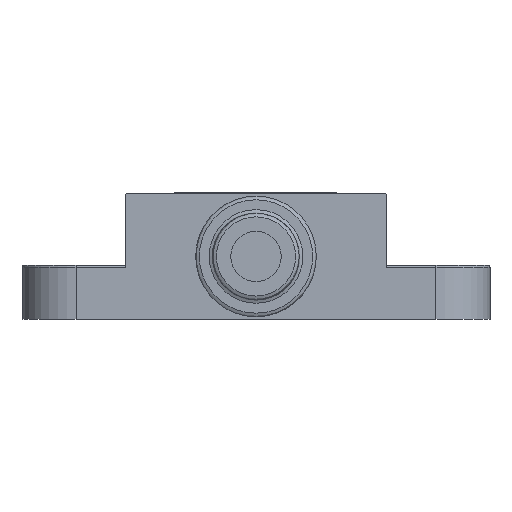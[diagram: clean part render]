
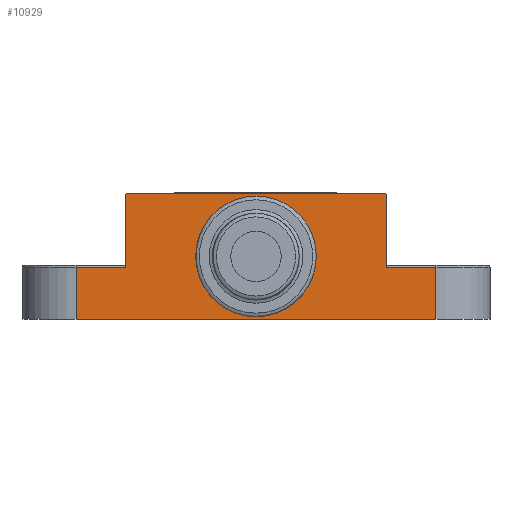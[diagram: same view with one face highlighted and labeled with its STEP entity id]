
A CAD part, front view. The second image highlights one B-rep face of the part: STEP entity #10929.
In plain terms, the highlighted planar face has unit normal (0, -1, 0).
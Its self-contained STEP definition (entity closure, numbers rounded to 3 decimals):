
#534=FACE_BOUND('',#1316,.T.);
#619=CIRCLE('',#11539,0.1);
#620=CIRCLE('',#11540,0.1);
#621=CIRCLE('',#11541,3.35);
#720=FACE_OUTER_BOUND('',#1315,.T.);
#1315=EDGE_LOOP('',(#6910,#6911,#6912,#6913,#6914,#6915,#6916,#6917,#6918,
#6919));
#1316=EDGE_LOOP('',(#6920));
#1967=LINE('',#14278,#3106);
#1989=LINE('',#14332,#3128);
#1993=LINE('',#14348,#3132);
#1998=LINE('',#14359,#3137);
#2005=LINE('',#14388,#3144);
#2006=LINE('',#14398,#3145);
#2007=LINE('',#14400,#3146);
#2008=LINE('',#14401,#3147);
#3106=VECTOR('',#12061,10.);
#3128=VECTOR('',#12095,10.);
#3132=VECTOR('',#12105,10.);
#3137=VECTOR('',#12116,10.);
#3144=VECTOR('',#12141,10.);
#3145=VECTOR('',#12154,10.);
#3146=VECTOR('',#12157,10.);
#3147=VECTOR('',#12158,10.);
#4247=VERTEX_POINT('',#14275);
#4248=VERTEX_POINT('',#14277);
#4272=VERTEX_POINT('',#14328);
#4274=VERTEX_POINT('',#14331);
#4278=VERTEX_POINT('',#14345);
#4282=VERTEX_POINT('',#14357);
#4287=VERTEX_POINT('',#14374);
#4291=VERTEX_POINT('',#14386);
#4293=VERTEX_POINT('',#14395);
#4294=VERTEX_POINT('',#14397);
#4295=VERTEX_POINT('',#14402);
#5287=EDGE_CURVE('',#4247,#4248,#1967,.T.);
#5313=EDGE_CURVE('',#4274,#4272,#1989,.T.);
#5320=EDGE_CURVE('',#4247,#4278,#1993,.T.);
#5326=EDGE_CURVE('',#4248,#4282,#1998,.T.);
#5338=EDGE_CURVE('',#4287,#4291,#2005,.T.);
#5341=EDGE_CURVE('',#4293,#4272,#619,.T.);
#5342=EDGE_CURVE('',#4294,#4293,#2006,.T.);
#5343=EDGE_CURVE('',#4287,#4294,#620,.T.);
#5344=EDGE_CURVE('',#4282,#4291,#2007,.T.);
#5345=EDGE_CURVE('',#4274,#4278,#2008,.T.);
#5346=EDGE_CURVE('',#4295,#4295,#621,.T.);
#6910=ORIENTED_EDGE('',*,*,#5313,.T.);
#6911=ORIENTED_EDGE('',*,*,#5341,.F.);
#6912=ORIENTED_EDGE('',*,*,#5342,.F.);
#6913=ORIENTED_EDGE('',*,*,#5343,.F.);
#6914=ORIENTED_EDGE('',*,*,#5338,.T.);
#6915=ORIENTED_EDGE('',*,*,#5344,.F.);
#6916=ORIENTED_EDGE('',*,*,#5326,.F.);
#6917=ORIENTED_EDGE('',*,*,#5287,.F.);
#6918=ORIENTED_EDGE('',*,*,#5320,.T.);
#6919=ORIENTED_EDGE('',*,*,#5345,.F.);
#6920=ORIENTED_EDGE('',*,*,#5346,.T.);
#9945=PLANE('',#11538);
#10929=ADVANCED_FACE('',(#720,#534),#9945,.T.);
#11538=AXIS2_PLACEMENT_3D('',#14394,#12150,#12151);
#11539=AXIS2_PLACEMENT_3D('',#14396,#12152,#12153);
#11540=AXIS2_PLACEMENT_3D('',#14399,#12155,#12156);
#11541=AXIS2_PLACEMENT_3D('',#14403,#12159,#12160);
#12061=DIRECTION('',(-1.,0.,0.));
#12095=DIRECTION('',(0.,0.,1.));
#12105=DIRECTION('',(0.,0.,1.));
#12116=DIRECTION('',(0.,0.,1.));
#12141=DIRECTION('',(0.,0.,-1.));
#12150=DIRECTION('center_axis',(0.,-1.,0.));
#12151=DIRECTION('ref_axis',(1.,0.,0.));
#12152=DIRECTION('center_axis',(0.,1.,0.));
#12153=DIRECTION('ref_axis',(0.707,0.,0.707));
#12154=DIRECTION('',(1.,0.,0.));
#12155=DIRECTION('center_axis',(0.,1.,0.));
#12156=DIRECTION('ref_axis',(-0.707,0.,0.707));
#12157=DIRECTION('',(1.,0.,0.));
#12158=DIRECTION('',(1.,0.,0.));
#12159=DIRECTION('center_axis',(0.,1.,0.));
#12160=DIRECTION('ref_axis',(-1.,0.,0.));
#14275=CARTESIAN_POINT('',(7.418,38.547,-3.525));
#14277=CARTESIAN_POINT('',(-12.582,38.547,-3.525));
#14278=CARTESIAN_POINT('',(7.418,38.547,-3.525));
#14328=CARTESIAN_POINT('',(4.668,38.547,3.375));
#14331=CARTESIAN_POINT('',(4.668,38.547,-0.625));
#14332=CARTESIAN_POINT('',(4.668,38.547,-0.025));
#14345=CARTESIAN_POINT('',(7.418,38.547,-0.625));
#14348=CARTESIAN_POINT('',(7.418,38.547,-3.525));
#14357=CARTESIAN_POINT('',(-12.582,38.547,-0.625));
#14359=CARTESIAN_POINT('',(-12.582,38.547,-3.525));
#14374=CARTESIAN_POINT('',(-9.832,38.547,3.375));
#14386=CARTESIAN_POINT('',(-9.832,38.547,-0.625));
#14388=CARTESIAN_POINT('',(-9.832,38.547,-0.025));
#14394=CARTESIAN_POINT('Origin',(-12.582,38.547,-3.525));
#14395=CARTESIAN_POINT('',(4.568,38.547,3.475));
#14396=CARTESIAN_POINT('Origin',(4.568,38.547,3.375));
#14397=CARTESIAN_POINT('',(-9.732,38.547,3.475));
#14398=CARTESIAN_POINT('',(7.418,38.547,3.475));
#14399=CARTESIAN_POINT('Origin',(-9.732,38.547,3.375));
#14400=CARTESIAN_POINT('',(-12.298,38.547,-0.625));
#14401=CARTESIAN_POINT('',(-2.867,38.547,-0.625));
#14402=CARTESIAN_POINT('',(-5.932,38.547,-0.025));
#14403=CARTESIAN_POINT('Origin',(-2.582,38.547,-0.025));
